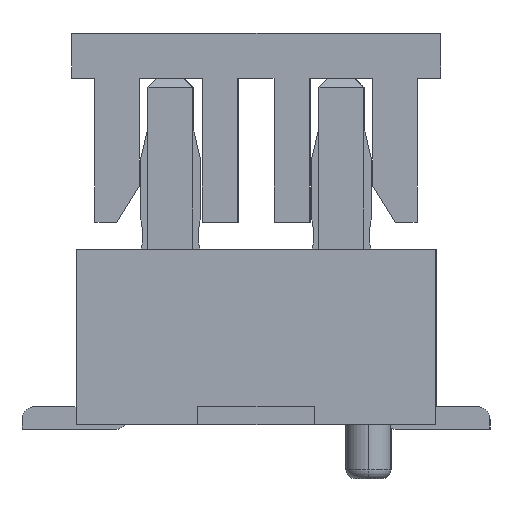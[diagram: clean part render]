
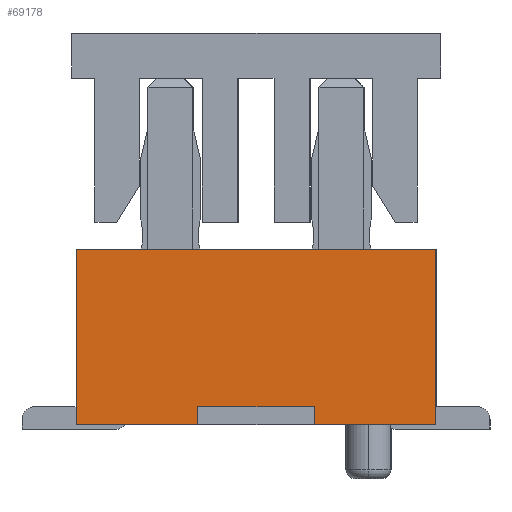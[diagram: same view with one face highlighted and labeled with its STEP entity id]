
A CAD part, left-side view. The second image highlights one B-rep face of the part: STEP entity #69178.
In plain terms, the highlighted planar face has unit normal (-1, 0, 0).
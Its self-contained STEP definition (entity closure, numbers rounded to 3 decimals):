
#2232 = FACE_OUTER_BOUND ( 'NONE', #136742, .T. ) ;
#10375 = ORIENTED_EDGE ( 'NONE', *, *, #68803, .T. ) ;
#11271 = VECTOR ( 'NONE', #39547, 1000. ) ;
#14895 = VERTEX_POINT ( 'NONE', #118260 ) ;
#15374 = CARTESIAN_POINT ( 'NONE',  ( -4.95, -2., 1.95 ) ) ;
#21351 = DIRECTION ( 'NONE',  ( 0., 1., 0. ) ) ;
#22485 = EDGE_CURVE ( 'NONE', #137926, #85276, #90810, .T. ) ;
#22989 = VECTOR ( 'NONE', #99569, 1000. ) ;
#23122 = EDGE_CURVE ( 'NONE', #43235, #135682, #38474, .T. ) ;
#24014 = LINE ( 'NONE', #54143, #11271 ) ;
#30132 = DIRECTION ( 'NONE',  ( 0., -1., 0. ) ) ;
#32711 = ORIENTED_EDGE ( 'NONE', *, *, #68138, .F. ) ;
#33916 = VECTOR ( 'NONE', #178933, 1000. ) ;
#38474 = LINE ( 'NONE', #177440, #70425 ) ;
#39547 = DIRECTION ( 'NONE',  ( 0., 1., 0. ) ) ;
#43235 = VERTEX_POINT ( 'NONE', #140258 ) ;
#43320 = LINE ( 'NONE', #156588, #88042 ) ;
#45857 = CARTESIAN_POINT ( 'NONE',  ( -4.95, 0.65, 0.2 ) ) ;
#54143 = CARTESIAN_POINT ( 'NONE',  ( -4.95, 1.325, 0. ) ) ;
#60981 = EDGE_CURVE ( 'NONE', #106916, #43235, #179118, .T. ) ;
#64111 = VECTOR ( 'NONE', #152525, 1000. ) ;
#67355 = EDGE_CURVE ( 'NONE', #14895, #137926, #107617, .T. ) ;
#68138 = EDGE_CURVE ( 'NONE', #78067, #106916, #24014, .T. ) ;
#68803 = EDGE_CURVE ( 'NONE', #78067, #85276, #109670, .T. ) ;
#69178 = ADVANCED_FACE ( 'NONE', ( #2232 ), #113732, .F. ) ;
#70425 = VECTOR ( 'NONE', #30132, 1000. ) ;
#71747 = ORIENTED_EDGE ( 'NONE', *, *, #67355, .F. ) ;
#73392 = DIRECTION ( 'NONE',  ( 0., 1., 0. ) ) ;
#77972 = CARTESIAN_POINT ( 'NONE',  ( -4.95, 0., 0.2 ) ) ;
#78067 = VERTEX_POINT ( 'NONE', #98604 ) ;
#79331 = DIRECTION ( 'NONE',  ( 0., 0., -1. ) ) ;
#79702 = CARTESIAN_POINT ( 'NONE',  ( -4.95, -0.65, 0.2 ) ) ;
#80238 = LINE ( 'NONE', #177199, #124850 ) ;
#84024 = CARTESIAN_POINT ( 'NONE',  ( -4.95, 0.65, 0.1 ) ) ;
#84487 = CARTESIAN_POINT ( 'NONE',  ( -4.95, 0., 0. ) ) ;
#85276 = VERTEX_POINT ( 'NONE', #45857 ) ;
#85954 = EDGE_CURVE ( 'NONE', #135682, #127273, #80238, .T. ) ;
#88042 = VECTOR ( 'NONE', #73392, 1000. ) ;
#90810 = LINE ( 'NONE', #77972, #128657 ) ;
#98604 = CARTESIAN_POINT ( 'NONE',  ( -4.95, 0.65, 0. ) ) ;
#99569 = DIRECTION ( 'NONE',  ( 0., 0., 1. ) ) ;
#106916 = VERTEX_POINT ( 'NONE', #159116 ) ;
#107079 = ORIENTED_EDGE ( 'NONE', *, *, #167122, .F. ) ;
#107617 = LINE ( 'NONE', #123145, #33916 ) ;
#109670 = LINE ( 'NONE', #84024, #22989 ) ;
#112317 = CARTESIAN_POINT ( 'NONE',  ( -4.95, 2., 0.975 ) ) ;
#113732 = PLANE ( 'NONE',  #125298 ) ;
#118260 = CARTESIAN_POINT ( 'NONE',  ( -4.95, -0.65, 0. ) ) ;
#123145 = CARTESIAN_POINT ( 'NONE',  ( -4.95, -0.65, 0.1 ) ) ;
#124850 = VECTOR ( 'NONE', #79331, 1000. ) ;
#125298 = AXIS2_PLACEMENT_3D ( 'NONE', #84487, #169533, #140269 ) ;
#127273 = VERTEX_POINT ( 'NONE', #128074 ) ;
#128074 = CARTESIAN_POINT ( 'NONE',  ( -4.95, -2., 0. ) ) ;
#128657 = VECTOR ( 'NONE', #21351, 1000. ) ;
#135682 = VERTEX_POINT ( 'NONE', #15374 ) ;
#136742 = EDGE_LOOP ( 'NONE', ( #10375, #173713, #71747, #107079, #158517, #144679, #176118, #32711 ) ) ;
#137926 = VERTEX_POINT ( 'NONE', #79702 ) ;
#140258 = CARTESIAN_POINT ( 'NONE',  ( -4.95, 2., 1.95 ) ) ;
#140269 = DIRECTION ( 'NONE',  ( 0., 1., 0. ) ) ;
#144679 = ORIENTED_EDGE ( 'NONE', *, *, #23122, .F. ) ;
#152525 = DIRECTION ( 'NONE',  ( 0., 0., 1. ) ) ;
#156588 = CARTESIAN_POINT ( 'NONE',  ( -4.95, -1.325, 0. ) ) ;
#158517 = ORIENTED_EDGE ( 'NONE', *, *, #85954, .F. ) ;
#159116 = CARTESIAN_POINT ( 'NONE',  ( -4.95, 2., 0. ) ) ;
#167122 = EDGE_CURVE ( 'NONE', #127273, #14895, #43320, .T. ) ;
#169533 = DIRECTION ( 'NONE',  ( 1., 0., 0. ) ) ;
#173713 = ORIENTED_EDGE ( 'NONE', *, *, #22485, .F. ) ;
#176118 = ORIENTED_EDGE ( 'NONE', *, *, #60981, .F. ) ;
#177199 = CARTESIAN_POINT ( 'NONE',  ( -4.95, -2., 0.975 ) ) ;
#177440 = CARTESIAN_POINT ( 'NONE',  ( -4.95, 0., 1.95 ) ) ;
#178933 = DIRECTION ( 'NONE',  ( 0., 0., 1. ) ) ;
#179118 = LINE ( 'NONE', #112317, #64111 ) ;
